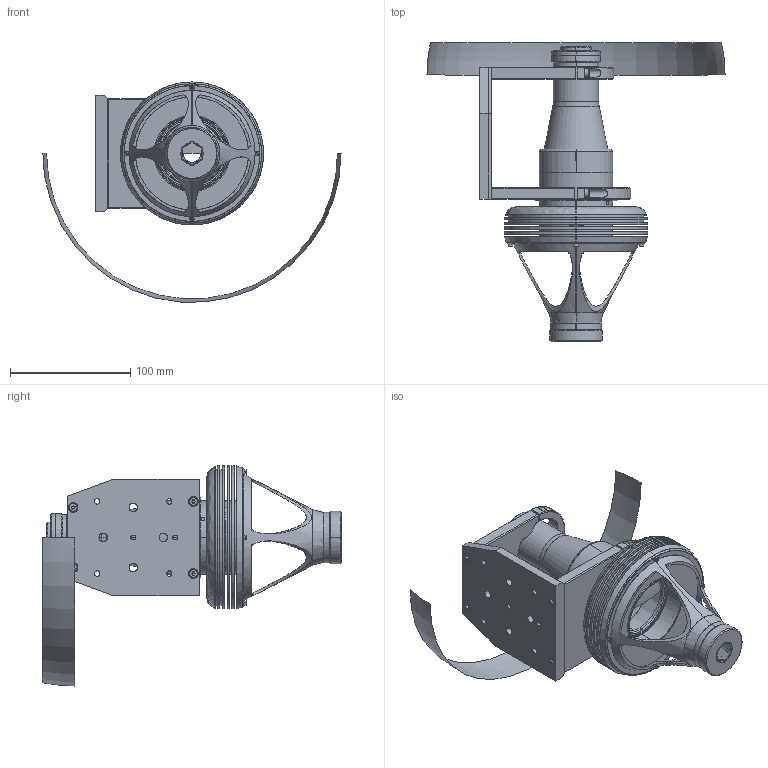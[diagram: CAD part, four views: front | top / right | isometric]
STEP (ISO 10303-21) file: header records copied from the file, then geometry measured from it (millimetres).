
FILE_DESCRIPTION(('LS-TCL-0061'),'2;1');
FILE_NAME('LS-TCL-0061.stp','2026-10-15T21:53:47',('LumaSpec Vision'),('LumaSpec Vision'),'LumaSpec Vision','LumaSpec Vision','');
FILE_SCHEMA(('AUTOMOTIVE_DESIGN { 1 0 10303 214 1 1 1 1 }'));
Length unit declared in the file: millimetre
Products named in the file (516): LumaSpec Vision
Assembly tree (515 placements, depth 2):
  LumaSpec Vision
    LumaSpec Vision
    LumaSpec Vision
    LumaSpec Vision
    LumaSpec Vision
    LumaSpec Vision
    LumaSpec Vision
    LumaSpec Vision
    LumaSpec Vision
    LumaSpec Vision
    LumaSpec Vision
    LumaSpec Vision
    LumaSpec Vision
    LumaSpec Vision
    LumaSpec Vision
    LumaSpec Vision
    LumaSpec Vision
    LumaSpec Vision
    LumaSpec Vision
    LumaSpec Vision
    LumaSpec Vision
    LumaSpec Vision
    LumaSpec Vision
    LumaSpec Vision
    LumaSpec Vision
    LumaSpec Vision
    LumaSpec Vision
    LumaSpec Vision
    LumaSpec Vision
    LumaSpec Vision
    LumaSpec Vision
    LumaSpec Vision
    LumaSpec Vision
    LumaSpec Vision
    LumaSpec Vision
    LumaSpec Vision
    LumaSpec Vision
    LumaSpec Vision
    LumaSpec Vision
    LumaSpec Vision
    LumaSpec Vision
    LumaSpec Vision
    LumaSpec Vision
    LumaSpec Vision
    LumaSpec Vision
    LumaSpec Vision
    LumaSpec Vision
    LumaSpec Vision
    LumaSpec Vision
    LumaSpec Vision
    LumaSpec Vision
    LumaSpec Vision
    LumaSpec Vision
    LumaSpec Vision
    LumaSpec Vision
    LumaSpec Vision
    LumaSpec Vision
    LumaSpec Vision
    LumaSpec Vision
    LumaSpec Vision
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Bounding box: 248 x 248.85 x 183.11 mm (x, y, z)
Surface area: 166592.9 mm2 (no closed solid volume)
Topology: 0 solids, 515 shells, 515 faces, 10029 edges, 10024 vertices
Faces by surface type: bspline 274, revolution 241
Entity records: 166487 total; most frequent: CARTESIAN_POINT 68797, B_SPLINE_CURVE_WITH_KNOTS 18120, ORIENTED_EDGE 10024, EDGE_CURVE 10024, VERTEX_POINT 10024, SURFACE_CURVE 10024, PCURVE 10024, DEFINITIONAL_REPRESENTATION 10024
